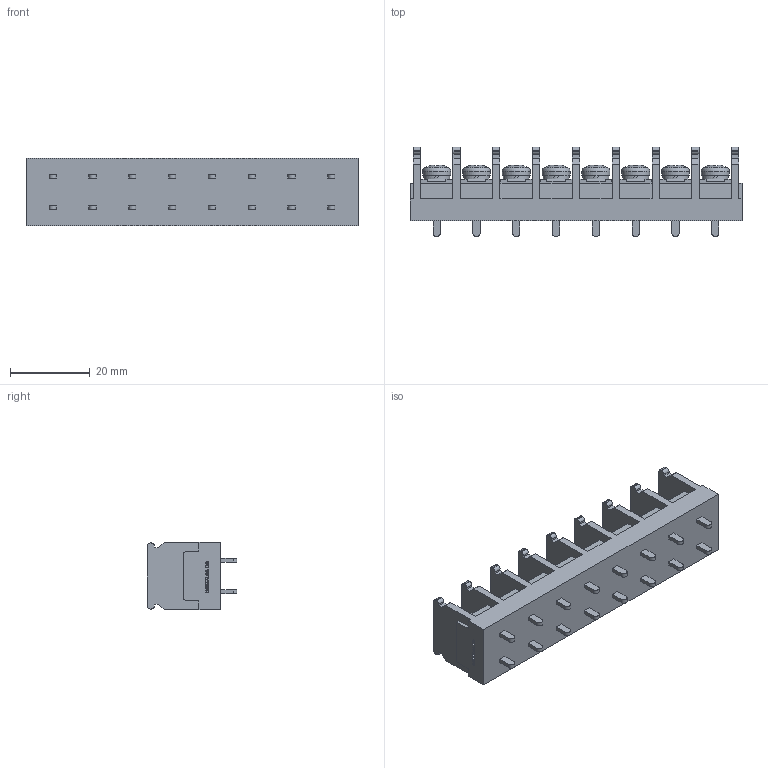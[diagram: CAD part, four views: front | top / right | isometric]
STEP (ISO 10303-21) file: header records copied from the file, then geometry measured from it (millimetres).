
FILE_DESCRIPTION(/* description */ ('Alibre Inc.'),/* implementation_level */ '2;1');
FILE_NAME(/* name */ 'export0',/* time_stamp */ '2015-10-17T15:34:59+09:00',/* author */ (''),/* organization */ (''),/* preprocessor_version */ 'ST-DEVELOPER v14',/* originating_system */ 'Alibre',/* authorisation */ '');
FILE_SCHEMA (('CONFIG_CONTROL_DESIGN'));
Length unit declared in the file: centimetre
Products named in the file (1): ID_1
Bounding box: 83.4 x 22.5 x 17 mm (x, y, z)
Volume: 15990.2 mm3; surface area: 9517.9 mm2
Topology: 1 solids, 17 shells, 984 faces, 2670 edges, 1772 vertices
Faces by surface type: plane 732, bspline 104, cylinder 92, cone 32, torus 16, sphere 8
Full cylindrical faces by diameter (mm): 4 x8, 6.5 x8, 7 x8
Entity records: 29930 total; most frequent: CARTESIAN_POINT 6520, ORIENTED_EDGE 5228, DIRECTION 3776, EDGE_CURVE 2614, VECTOR 1920, LINE 1920, VERTEX_POINT 1748, AXIS2_PLACEMENT_3D 1284
